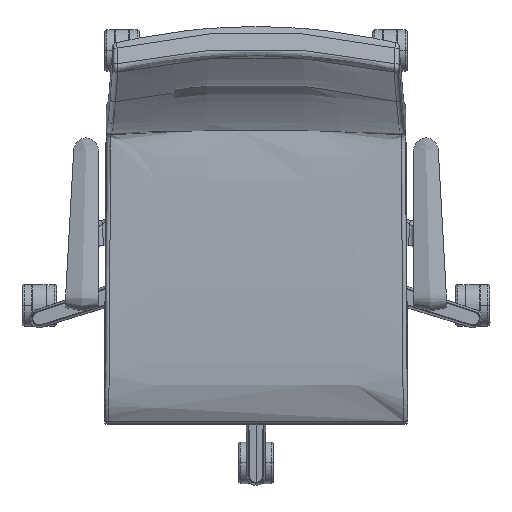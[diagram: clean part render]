
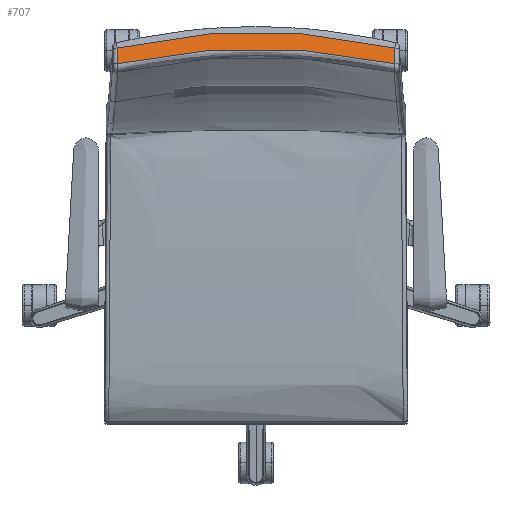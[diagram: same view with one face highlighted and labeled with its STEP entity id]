
A CAD part, top view. The second image highlights one B-rep face of the part: STEP entity #707.
In plain terms, the highlighted free-form (B-spline) face has degree [1, 3] with [2, 9] control points.
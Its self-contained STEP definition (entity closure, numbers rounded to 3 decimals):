
#707=ADVANCED_FACE('',(#976),#3854,.T.);
#976=FACE_OUTER_BOUND('',#1245,.T.);
#1245=EDGE_LOOP('',(#1541,#1542,#1543,#1544));
#1541=ORIENTED_EDGE('',*,*,#2645,.T.);
#1542=ORIENTED_EDGE('',*,*,#2674,.F.);
#1543=ORIENTED_EDGE('',*,*,#2646,.F.);
#1544=ORIENTED_EDGE('',*,*,#2665,.F.);
#2645=EDGE_CURVE('',#3501,#3504,#3257,.T.);
#2646=EDGE_CURVE('',#3502,#3503,#3258,.T.);
#2665=EDGE_CURVE('',#3501,#3502,#3277,.T.);
#2674=EDGE_CURVE('',#3503,#3504,#3286,.T.);
#3257=B_SPLINE_CURVE_WITH_KNOTS('',3,(#8465,#8466,#8467,#8468,#8469),
 .UNSPECIFIED.,.F.,.F.,(4,1,4),(3.58,206.632,409.684),
 .UNSPECIFIED.);
#3258=B_SPLINE_CURVE_WITH_KNOTS('',3,(#8470,#8471,#8472,#8473,#8474),
 .UNSPECIFIED.,.F.,.F.,(4,1,4),(8.561,211.488,414.416),
 .UNSPECIFIED.);
#3277=B_SPLINE_CURVE_WITH_KNOTS('',1,(#8688,#8689),.UNSPECIFIED.,.F.,.F.,
(2,2),(-1.451,22.029),.UNSPECIFIED.);
#3286=B_SPLINE_CURVE_WITH_KNOTS('',1,(#8722,#8723),.UNSPECIFIED.,.F.,.F.,
(2,2),(1.389,24.87),.UNSPECIFIED.);
#3501=VERTEX_POINT('',#8366);
#3502=VERTEX_POINT('',#8367);
#3503=VERTEX_POINT('',#8368);
#3504=VERTEX_POINT('',#8369);
#3854=B_SPLINE_SURFACE_WITH_KNOTS('',1,3,((#4915,#4916,#4917,#4918,#4919,
#4920,#4921,#4922,#4923),(#4924,#4925,#4926,#4927,#4928,#4929,#4930,#4931,
#4932)),.UNSPECIFIED.,.F.,.F.,.F.,(2,2),(4,1,1,1,1,1,4),(0.,1.),(0.,71.501,
143.002,214.503,286.004,357.505,429.006),
 .UNSPECIFIED.);
#4915=CARTESIAN_POINT('',(207.056,254.197,897.051));
#4916=CARTESIAN_POINT('',(184.503,259.507,895.468));
#4917=CARTESIAN_POINT('',(138.93,268.396,892.818));
#4918=CARTESIAN_POINT('',(69.692,276.428,890.423));
#4919=CARTESIAN_POINT('',(0.,279.112,889.623));
#4920=CARTESIAN_POINT('',(-69.692,276.428,890.423));
#4921=CARTESIAN_POINT('',(-138.931,268.396,892.818));
#4922=CARTESIAN_POINT('',(-184.503,259.507,895.468));
#4923=CARTESIAN_POINT('',(-207.056,254.197,897.051));
#4924=CARTESIAN_POINT('',(207.002,296.701,885.675));
#4925=CARTESIAN_POINT('',(184.455,302.057,884.267));
#4926=CARTESIAN_POINT('',(138.893,311.021,881.909));
#4927=CARTESIAN_POINT('',(69.673,319.121,879.779));
#4928=CARTESIAN_POINT('',(0.,321.827,879.067));
#4929=CARTESIAN_POINT('',(-69.673,319.121,879.779));
#4930=CARTESIAN_POINT('',(-138.894,311.021,881.909));
#4931=CARTESIAN_POINT('',(-184.455,302.057,884.267));
#4932=CARTESIAN_POINT('',(-207.002,296.701,885.675));
#8366=CARTESIAN_POINT('',(201.131,288.18,887.951));
#8367=CARTESIAN_POINT('',(201.136,265.492,893.997));
#8368=CARTESIAN_POINT('',(-201.136,265.492,893.997));
#8369=CARTESIAN_POINT('',(-201.131,288.18,887.951));
#8465=CARTESIAN_POINT('',(201.131,288.18,887.951));
#8466=CARTESIAN_POINT('',(135.332,303.471,883.806));
#8467=CARTESIAN_POINT('',(0.,318.971,879.613));
#8468=CARTESIAN_POINT('',(-135.332,303.471,883.806));
#8469=CARTESIAN_POINT('',(-201.131,288.18,887.951));
#8470=CARTESIAN_POINT('',(201.136,265.492,893.997));
#8471=CARTESIAN_POINT('',(135.221,280.011,889.774));
#8472=CARTESIAN_POINT('',(0.,294.706,885.474));
#8473=CARTESIAN_POINT('',(-135.221,280.011,889.774));
#8474=CARTESIAN_POINT('',(-201.136,265.492,893.997));
#8688=CARTESIAN_POINT('',(201.131,288.18,887.951));
#8689=CARTESIAN_POINT('',(201.136,265.492,893.997));
#8722=CARTESIAN_POINT('',(-201.136,265.492,893.997));
#8723=CARTESIAN_POINT('',(-201.131,288.18,887.951));
